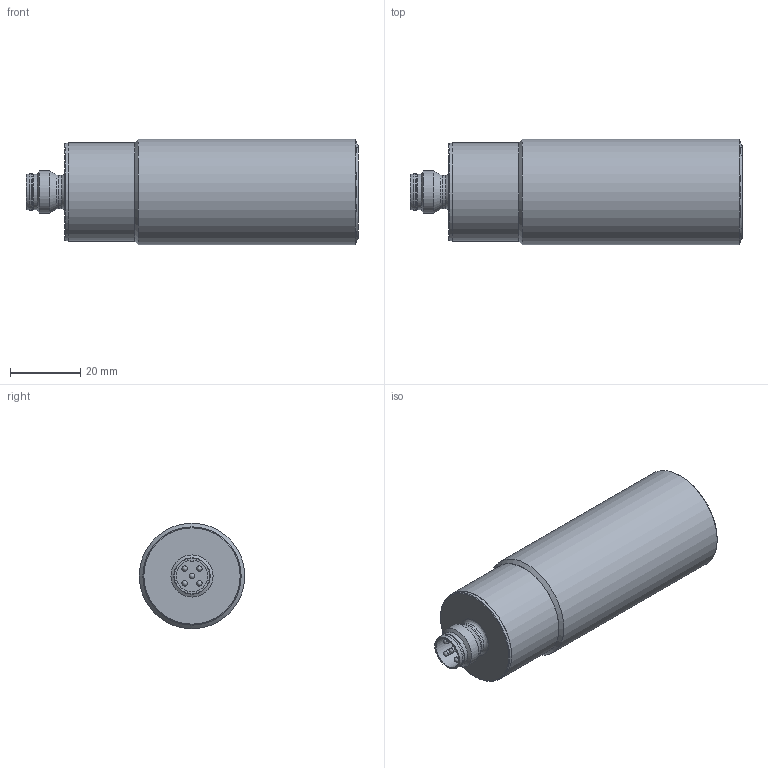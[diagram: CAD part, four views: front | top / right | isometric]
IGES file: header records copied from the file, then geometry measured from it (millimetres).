
Global section: file name: No Iges File Name specified; native system: AutoDesk Inventor R6.1; preprocessor: AutoDesk Inventor Iges Exporter R6.1; author: No Author specified; organization: No Organization specified; date: 20050809.113102; units: millimetre
Bounding box: 94.5 x 30 x 30 mm (x, y, z)
Surface area: 9827.9 mm2 (no closed solid volume)
Topology: 0 solids, 0 shells, 42 faces, 129 edges, 93 vertices
Faces by surface type: revolution 30, plane 8, bspline 4
